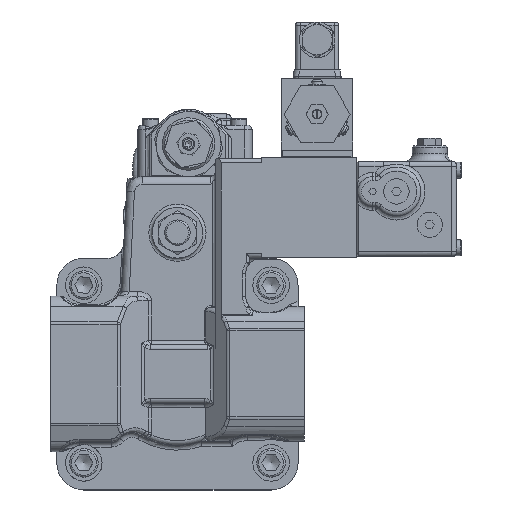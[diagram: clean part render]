
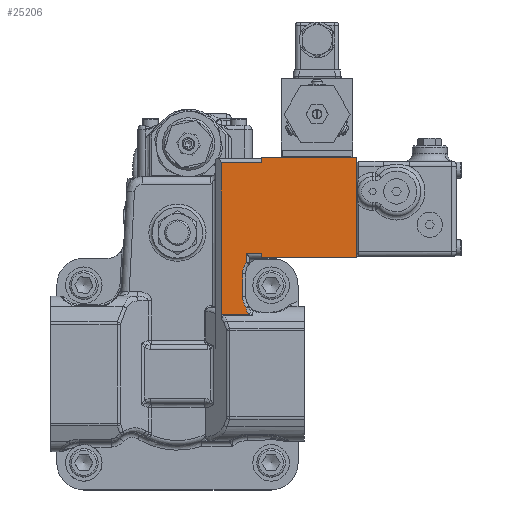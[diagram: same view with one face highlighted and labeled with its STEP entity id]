
A CAD part, top view. The second image highlights one B-rep face of the part: STEP entity #25206.
In plain terms, the highlighted planar face has unit normal (0, 0, 1).
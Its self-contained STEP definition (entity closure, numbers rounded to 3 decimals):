
#73=CARTESIAN_POINT('',(53.,76.,218.7));
#74=VERTEX_POINT('',#73);
#84=CARTESIAN_POINT('',(53.,73.5,218.7));
#85=VERTEX_POINT('',#84);
#92=CARTESIAN_POINT('',(53.,73.5,218.7));
#93=DIRECTION('',(0.0,1.0,0.0));
#94=VECTOR('',#93,2.5);
#95=LINE('',#92,#94);
#96=EDGE_CURVE('',#85,#74,#95,.T.);
#150=CARTESIAN_POINT('',(53.,133.,218.7));
#151=VERTEX_POINT('',#150);
#159=CARTESIAN_POINT('',(53.,136.5,218.7));
#160=VERTEX_POINT('',#159);
#161=CARTESIAN_POINT('',(53.,133.,218.7));
#162=DIRECTION('',(0.0,1.0,0.0));
#163=VECTOR('',#162,3.5);
#164=LINE('',#161,#163);
#165=EDGE_CURVE('',#151,#160,#164,.T.);
#191=CARTESIAN_POINT('',(113.,119.503,218.7));
#192=VERTEX_POINT('',#191);
#292=CARTESIAN_POINT('',(113.,110.497,218.7));
#293=VERTEX_POINT('',#292);
#301=CARTESIAN_POINT('',(113.,73.5,218.7));
#302=VERTEX_POINT('',#301);
#303=CARTESIAN_POINT('',(113.,73.5,218.7));
#304=DIRECTION('',(0.0,1.0,0.0));
#305=VECTOR('',#304,36.997);
#306=LINE('',#303,#305);
#307=EDGE_CURVE('',#302,#293,#306,.T.);
#325=CARTESIAN_POINT('',(113.,136.5,218.7));
#326=VERTEX_POINT('',#325);
#333=CARTESIAN_POINT('',(113.,119.503,218.7));
#334=DIRECTION('',(0.0,1.0,0.0));
#335=VECTOR('',#334,16.997);
#336=LINE('',#333,#335);
#337=EDGE_CURVE('',#192,#326,#336,.T.);
#446=CARTESIAN_POINT('',(53.,136.5,218.7));
#447=DIRECTION('',(1.0,0.0,0.0));
#448=VECTOR('',#447,60.);
#449=LINE('',#446,#448);
#450=EDGE_CURVE('',#160,#326,#449,.T.);
#590=CARTESIAN_POINT('',(113.,73.5,218.7));
#591=DIRECTION('',(-1.0,0.0,0.0));
#592=VECTOR('',#591,60.);
#593=LINE('',#590,#592);
#594=EDGE_CURVE('',#302,#85,#593,.T.);
#10774=CARTESIAN_POINT('',(113.,119.503,218.7));
#10775=DIRECTION('',(0.0,-1.0,0.0));
#10776=VECTOR('',#10775,9.005);
#10777=LINE('',#10774,#10776);
#10778=EDGE_CURVE('',#192,#293,#10777,.T.);
#25000=CARTESIAN_POINT('',(43.401,70.201,218.7));
#25001=VERTEX_POINT('',#25000);
#25017=CARTESIAN_POINT('',(43.401,76.,218.7));
#25018=VERTEX_POINT('',#25017);
#25032=CARTESIAN_POINT('',(43.401,76.,218.7));
#25033=DIRECTION('',(0.0,-1.0,0.0));
#25034=VECTOR('',#25033,5.799);
#25035=LINE('',#25032,#25034);
#25036=EDGE_CURVE('',#25018,#25001,#25035,.T.);
#25097=CARTESIAN_POINT('',(41.,63.,218.7));
#25098=VERTEX_POINT('',#25097);
#25099=CARTESIAN_POINT('',(53.,63.,218.7));
#25100=DIRECTION('',(0.,0.,1.0));
#25101=DIRECTION('',(-0.938,0.346,0.));
#25102=AXIS2_PLACEMENT_3D('',#25099,#25100,#25101);
#25103=CIRCLE('',#25102,12.0);
#25104=EDGE_CURVE('',#25001,#25098,#25103,.T.);
#25117=CARTESIAN_POINT('',(49.,133.,218.7));
#25118=DIRECTION('',(0.0,0.0,1.0));
#25119=DIRECTION('',(1.0,0.0,0.0));
#25120=AXIS2_PLACEMENT_3D('',#25117,#25118,#25119);
#25121=PLANE('',#25120);
#25122=ORIENTED_EDGE('',*,*,#25036,.F.);
#25123=CARTESIAN_POINT('',(53.,76.,218.7));
#25124=DIRECTION('',(-1.0,0.0,0.0));
#25125=VECTOR('',#25124,9.599);
#25126=LINE('',#25123,#25125);
#25127=EDGE_CURVE('',#74,#25018,#25126,.T.);
#25128=ORIENTED_EDGE('',*,*,#25127,.F.);
#25129=ORIENTED_EDGE('',*,*,#96,.F.);
#25130=ORIENTED_EDGE('',*,*,#594,.F.);
#25131=ORIENTED_EDGE('',*,*,#307,.T.);
#25132=ORIENTED_EDGE('',*,*,#10778,.F.);
#25133=ORIENTED_EDGE('',*,*,#337,.T.);
#25134=ORIENTED_EDGE('',*,*,#450,.F.);
#25135=ORIENTED_EDGE('',*,*,#165,.F.);
#25136=CARTESIAN_POINT('',(27.496,133.,218.7));
#25137=VERTEX_POINT('',#25136);
#25138=CARTESIAN_POINT('',(53.,133.,218.7));
#25139=DIRECTION('',(-1.0,0.0,0.0));
#25140=VECTOR('',#25139,25.504);
#25141=LINE('',#25138,#25140);
#25142=EDGE_CURVE('',#151,#25137,#25141,.T.);
#25143=ORIENTED_EDGE('',*,*,#25142,.T.);
#25144=CARTESIAN_POINT('',(27.496,36.796,218.7));
#25145=VERTEX_POINT('',#25144);
#25146=CARTESIAN_POINT('',(27.496,133.,218.7));
#25147=DIRECTION('',(0.0,-1.0,0.0));
#25148=VECTOR('',#25147,96.204);
#25149=LINE('',#25146,#25148);
#25150=EDGE_CURVE('',#25137,#25145,#25149,.T.);
#25151=ORIENTED_EDGE('',*,*,#25150,.T.);
#25152=CARTESIAN_POINT('',(29.66,37.714,218.7));
#25153=VERTEX_POINT('',#25152);
#25154=CARTESIAN_POINT('',(29.66,37.714,218.7));
#25155=CARTESIAN_POINT('',(29.175,37.714,218.7));
#25156=CARTESIAN_POINT('',(28.434,37.564,218.7));
#25157=CARTESIAN_POINT('',(27.763,37.086,218.7));
#25158=CARTESIAN_POINT('',(27.545,36.853,218.7));
#25159=CARTESIAN_POINT('',(27.495,36.796,218.7));
#25160=B_SPLINE_CURVE_WITH_KNOTS('',3,(#25154,#25155,#25156,#25157,#25158,#25159),.UNSPECIFIED.,.F.,.U.,(4,1,1,4),(-0.51,-0.364,-0.291,-0.269),.UNSPECIFIED.);
#25161=EDGE_CURVE('',#25153,#25145,#25160,.T.);
#25162=ORIENTED_EDGE('',*,*,#25161,.F.);
#25163=CARTESIAN_POINT('',(44.829,37.714,218.7));
#25164=VERTEX_POINT('',#25163);
#25165=CARTESIAN_POINT('',(29.66,37.714,218.7));
#25166=DIRECTION('',(1.0,0.0,0.0));
#25167=VECTOR('',#25166,15.168);
#25168=LINE('',#25165,#25167);
#25169=EDGE_CURVE('',#25164,#25153,#25168,.F.);
#25170=ORIENTED_EDGE('',*,*,#25169,.F.);
#25171=CARTESIAN_POINT('',(43.401,41.674,218.7));
#25172=VERTEX_POINT('',#25171);
#25173=CARTESIAN_POINT('',(43.401,41.674,218.7));
#25174=CARTESIAN_POINT('',(43.401,40.248,218.7));
#25175=CARTESIAN_POINT('',(43.908,38.8,218.7));
#25176=CARTESIAN_POINT('',(44.829,37.714,218.7));
#25177=B_SPLINE_CURVE_WITH_KNOTS('',3,(#25173,#25174,#25175,#25176),.UNSPECIFIED.,.F.,.U.,(4,4),(0.012,0.439),.UNSPECIFIED.);
#25178=EDGE_CURVE('',#25172,#25164,#25177,.T.);
#25179=ORIENTED_EDGE('',*,*,#25178,.F.);
#25180=CARTESIAN_POINT('',(43.401,41.799,218.7));
#25181=VERTEX_POINT('',#25180);
#25182=CARTESIAN_POINT('',(43.401,41.799,218.7));
#25183=DIRECTION('',(0.0,-1.0,0.0));
#25184=VECTOR('',#25183,0.125);
#25185=LINE('',#25182,#25184);
#25186=EDGE_CURVE('',#25181,#25172,#25185,.T.);
#25187=ORIENTED_EDGE('',*,*,#25186,.F.);
#25188=CARTESIAN_POINT('',(41.,49.,218.7));
#25189=VERTEX_POINT('',#25188);
#25190=CARTESIAN_POINT('',(53.,49.,218.7));
#25191=DIRECTION('',(0.,0.,1.0));
#25192=DIRECTION('',(-0.938,-0.346,0.));
#25193=AXIS2_PLACEMENT_3D('',#25190,#25191,#25192);
#25194=CIRCLE('',#25193,12.0);
#25195=EDGE_CURVE('',#25189,#25181,#25194,.T.);
#25196=ORIENTED_EDGE('',*,*,#25195,.F.);
#25197=CARTESIAN_POINT('',(41.,63.,218.7));
#25198=DIRECTION('',(0.0,-1.0,0.0));
#25199=VECTOR('',#25198,14.);
#25200=LINE('',#25197,#25199);
#25201=EDGE_CURVE('',#25098,#25189,#25200,.T.);
#25202=ORIENTED_EDGE('',*,*,#25201,.F.);
#25203=ORIENTED_EDGE('',*,*,#25104,.F.);
#25204=EDGE_LOOP('',(#25122,#25128,#25129,#25130,#25131,#25132,#25133,#25134,#25135,#25143,#25151,#25162,#25170,#25179,#25187,#25196,#25202,#25203));
#25205=FACE_OUTER_BOUND('',#25204,.T.);
#25206=ADVANCED_FACE('',(#25205),#25121,.T.);
